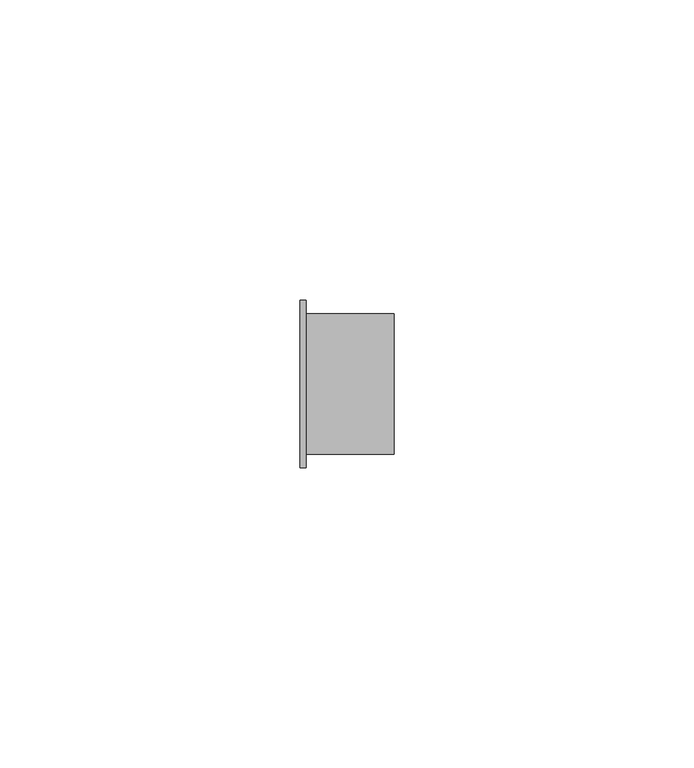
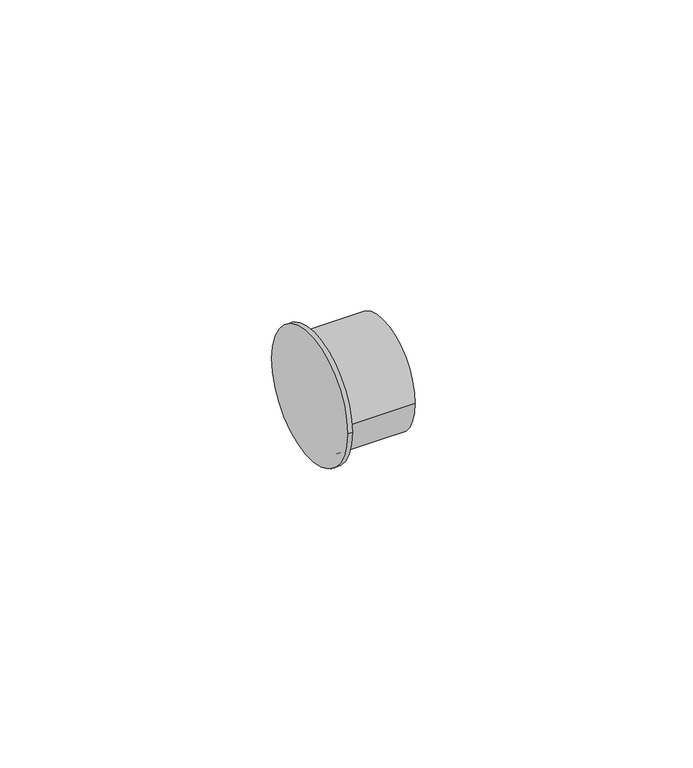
"""IFC4 building model written with IfcOpenShell, lengths in millimetres: pipe fitting geometry, Bucha de redução reta - Soldada - CU : Padrão."""

from ifc_helpers import new_model, si_unit, frame, origin, place, context, project, spatial, circle_curve, source, transform, mapped, element, save
from ifc_brep_helpers import plane_surface, cylinder_surface, advanced_brep


def pipe_fitting_c9ced03d(model_context):
    return source(origin(), model_context, "Body", "AdvancedBrep", [
        advanced_brep(
        [(0.0, 13.97, 0.0), (0.0, -13.97, 0.0), (1.0, 13.97, 0.0), (1.0, -13.97, 0.0), (1.0, 11.7322, 0.0), (1.0, -11.7322, 0.0), (15.6434, 11.7322, 0.0), (15.6434, -11.7322, 0.0)],
        [
            (0, 1, circle_curve(frame((0.0, 0.0, 0.0), z_axis=(-1.0, 0.0, 0.0), x_axis=(0.0, -1.0, 0.0)), 13.97)),
            (1, 0, circle_curve(frame((0.0, 0.0, 0.0), z_axis=(-1.0, 0.0, 0.0), x_axis=(0.0, -1.0, 0.0)), 13.97)),
            (2, 3, circle_curve(frame((1.0, 0.0, 0.0), z_axis=(1.0, 0.0, 0.0), x_axis=(0.0, -1.0, 0.0)), 13.97)),
            (3, 2, circle_curve(frame((1.0, 0.0, 0.0), z_axis=(1.0, 0.0, 0.0), x_axis=(0.0, -1.0, 0.0)), 13.97)),
            (4, 5, circle_curve(frame((1.0, 0.0, 0.0), z_axis=(-1.0, 0.0, 0.0), x_axis=(0.0, -1.0, 0.0)), 11.7322)),
            (5, 4, circle_curve(frame((1.0, 0.0, 0.0), z_axis=(-1.0, 0.0, 0.0), x_axis=(0.0, -1.0, 0.0)), 11.7322)),
            (1, 3),
            (2, 0),
            (6, 7, circle_curve(frame((15.6434, 0.0, 0.0), z_axis=(1.0, 0.0, 0.0), x_axis=(0.0, -1.0, 0.0)), 11.7322)),
            (7, 6, circle_curve(frame((15.6434, 0.0, 0.0), z_axis=(1.0, 0.0, 0.0), x_axis=(0.0, -1.0, 0.0)), 11.7322)),
            (6, 4),
            (5, 7),
        ],
        [
            plane_surface(frame((0.0, 0.0, 0.0), z_axis=(-1.0, 0.0, 0.0), x_axis=(0.0, 0.0, 1.0))),
            plane_surface(frame((1.0, 0.0, 0.0), z_axis=(1.0, 0.0, 0.0), x_axis=(0.0, 0.0, 1.0))),
            cylinder_surface(frame((0.0, 0.0, 0.0), z_axis=(-1.0, 0.0, 0.0), x_axis=(0.0, -1.0, 0.0)), 13.97),
            plane_surface(frame((15.6434, 0.0, 0.0), z_axis=(1.0, 0.0, 0.0), x_axis=(0.0, 0.0, 1.0))),
            cylinder_surface(frame((1.0, 0.0, 0.0), z_axis=(-1.0, 0.0, 0.0), x_axis=(0.0, -1.0, 0.0)), 11.7322),
        ],
        [
            (0, [[1, 2]]),
            (1, [[3, 4], [5, 6]]),
            (2, [[7, -3, 8, -2]]),
            (2, [[-8, -4, -7, -1]]),
            (3, [[9, 10]]),
            (4, [[11, -6, 12, -9]]),
            (4, [[-12, -5, -11, -10]]),
        ],
    ),
    ])


if __name__ == "__main__":
    model = new_model("IFC4")
    model_context = context("Model", 3, world=origin())
    ifc_project = project(units=[si_unit("LENGTHUNIT", "METRE", prefix="MILLI")], contexts=[model_context])
    site = spatial("IfcSite", under=ifc_project)
    building = spatial("IfcBuilding", under=site)
    placement = place(None, origin())
    pipe_fitting_shape = pipe_fitting_c9ced03d(model_context)
    element("IfcPipeFitting", 1, ObjectType="Bucha de redução reta - Soldada - CU : Padrão", at=placement, inside=building, context=model_context, shape_type="MappedRepresentation", body=[
        mapped(pipe_fitting_shape, transform((0.0, 0.0, 0.0), x_axis=(1.0, 0.0, 0.0), y_axis=(0.0, 1.0, 0.0), z_axis=(0.0, 0.0, 1.0))),
    ])
    save(model, "model.ifc")
